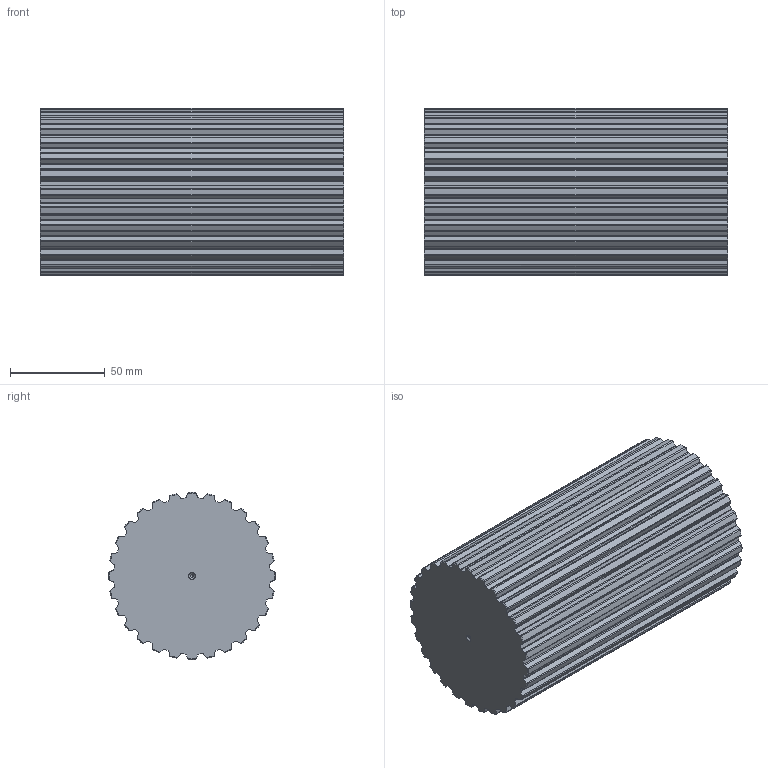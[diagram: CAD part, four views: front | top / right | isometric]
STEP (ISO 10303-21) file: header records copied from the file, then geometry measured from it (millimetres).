
FILE_DESCRIPTION(('STEP AP203'),'1');
FILE_NAME('barat_28.stp','2019-11-22T17:22:27',('TraceParts'),('TraceParts S.A.'),'Spatial InterOp 3D',' ',' ');
FILE_SCHEMA(('CONFIG_CONTROL_DESIGN'));
Length unit declared in the file: millimetre
Products named in the file (1): 1
Bounding box: 160 x 88.13 x 88.12 mm (x, y, z)
Volume: 919027.6 mm3; surface area: 68200.4 mm2
Topology: 1 solids, 1 shells, 298 faces, 880 edges, 582 vertices
Faces by surface type: cylinder 172, cone 68, plane 58
Entity records: 10484 total; most frequent: CARTESIAN_POINT 2765, ORIENTED_EDGE 1752, DIRECTION 1550, EDGE_CURVE 876, AXIS2_PLACEMENT_3D 599, VERTEX_POINT 582, LINE 352, VECTOR 352
